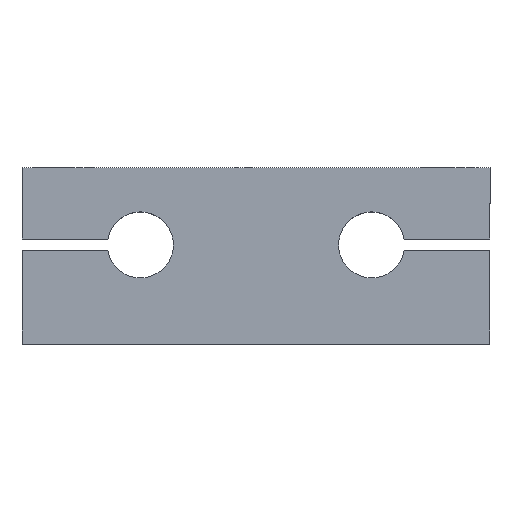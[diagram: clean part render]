
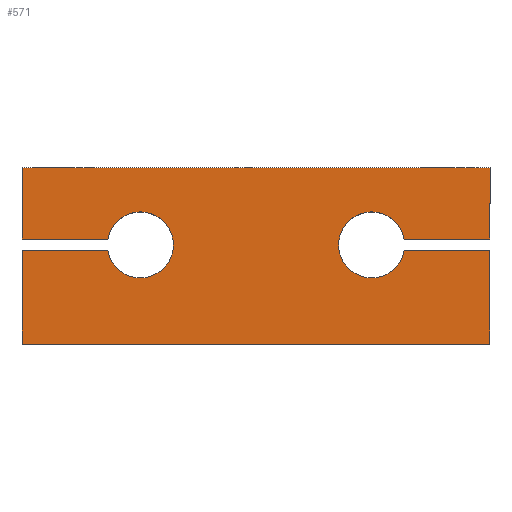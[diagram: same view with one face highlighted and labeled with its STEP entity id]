
A CAD part, top view. The second image highlights one B-rep face of the part: STEP entity #571.
In plain terms, the highlighted planar face has unit normal (0, 0, 1).
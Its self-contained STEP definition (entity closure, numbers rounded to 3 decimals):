
#21 = DIRECTION ( 'NONE',  ( 0., 0., 1. ) ) ;
#22 = DIRECTION ( 'NONE',  ( -1., 0., 0. ) ) ;
#27 = EDGE_CURVE ( 'NONE', #629, #144, #822, .T. ) ;
#28 = DIRECTION ( 'NONE',  ( 0., 1., 0. ) ) ;
#30 = DIRECTION ( 'NONE',  ( 0., -1., 0. ) ) ;
#32 = ORIENTED_EDGE ( 'NONE', *, *, #752, .F. ) ;
#36 = VERTEX_POINT ( 'NONE', #58 ) ;
#50 = AXIS2_PLACEMENT_3D ( 'NONE', #163, #75, #339 ) ;
#54 = LINE ( 'NONE', #1078, #265 ) ;
#55 = LINE ( 'NONE', #1091, #854 ) ;
#58 = CARTESIAN_POINT ( 'NONE',  ( -42.5, 0.925, 7. ) ) ;
#66 = ORIENTED_EDGE ( 'NONE', *, *, #525, .F. ) ;
#69 = FACE_OUTER_BOUND ( 'NONE', #1108, .T. ) ;
#74 = EDGE_CURVE ( 'NONE', #36, #496, #55, .T. ) ;
#75 = DIRECTION ( 'NONE',  ( 0., 0., 1. ) ) ;
#77 = CARTESIAN_POINT ( 'NONE',  ( -26.903, 3.075, 7. ) ) ;
#83 = VECTOR ( 'NONE', #204, 1000. ) ;
#111 = CARTESIAN_POINT ( 'NONE',  ( -21., 2., 7. ) ) ;
#112 = CARTESIAN_POINT ( 'NONE',  ( -42.5, 16., 7. ) ) ;
#139 = DIRECTION ( 'NONE',  ( 0., 0., 1. ) ) ;
#144 = VERTEX_POINT ( 'NONE', #844 ) ;
#163 = CARTESIAN_POINT ( 'NONE',  ( -21., 2., 7. ) ) ;
#168 = EDGE_CURVE ( 'NONE', #704, #197, #538, .T. ) ;
#184 = EDGE_CURVE ( 'NONE', #817, #1081, #1060, .T. ) ;
#186 = ORIENTED_EDGE ( 'NONE', *, *, #357, .T. ) ;
#197 = VERTEX_POINT ( 'NONE', #77 ) ;
#204 = DIRECTION ( 'NONE',  ( -1., 0., 0. ) ) ;
#214 = CARTESIAN_POINT ( 'NONE',  ( 42.5, 16., 7. ) ) ;
#219 = VECTOR ( 'NONE', #399, 1000. ) ;
#230 = CARTESIAN_POINT ( 'NONE',  ( -42.5, -16., 7. ) ) ;
#241 = CARTESIAN_POINT ( 'NONE',  ( -42.5, -16., 7. ) ) ;
#244 = CARTESIAN_POINT ( 'NONE',  ( 26.903, 3.075, 7. ) ) ;
#265 = VECTOR ( 'NONE', #664, 1000. ) ;
#283 = ORIENTED_EDGE ( 'NONE', *, *, #372, .F. ) ;
#284 = ORIENTED_EDGE ( 'NONE', *, *, #559, .T. ) ;
#330 = CARTESIAN_POINT ( 'NONE',  ( 0., 0., 7. ) ) ;
#339 = DIRECTION ( 'NONE',  ( 1., 0., 0. ) ) ;
#357 = EDGE_CURVE ( 'NONE', #36, #629, #702, .T. ) ;
#361 = ORIENTED_EDGE ( 'NONE', *, *, #27, .T. ) ;
#364 = VERTEX_POINT ( 'NONE', #214 ) ;
#372 = EDGE_CURVE ( 'NONE', #1081, #895, #710, .T. ) ;
#374 = DIRECTION ( 'NONE',  ( 1., 0., 0. ) ) ;
#382 = ORIENTED_EDGE ( 'NONE', *, *, #168, .F. ) ;
#393 = VECTOR ( 'NONE', #30, 1000. ) ;
#395 = ORIENTED_EDGE ( 'NONE', *, *, #74, .F. ) ;
#399 = DIRECTION ( 'NONE',  ( -1., 0., 0. ) ) ;
#400 = DIRECTION ( 'NONE',  ( 1., 0., 0. ) ) ;
#403 = LINE ( 'NONE', #912, #405 ) ;
#405 = VECTOR ( 'NONE', #746, 1000. ) ;
#406 = CIRCLE ( 'NONE', #1018, 6. ) ;
#431 = CARTESIAN_POINT ( 'NONE',  ( 42.5, 0.925, 7. ) ) ;
#446 = CARTESIAN_POINT ( 'NONE',  ( 26.903, 0.925, 7. ) ) ;
#488 = EDGE_CURVE ( 'NONE', #633, #817, #627, .T. ) ;
#495 = VECTOR ( 'NONE', #22, 1000. ) ;
#496 = VERTEX_POINT ( 'NONE', #541 ) ;
#509 = EDGE_CURVE ( 'NONE', #364, #1051, #875, .T. ) ;
#524 = EDGE_CURVE ( 'NONE', #633, #364, #54, .T. ) ;
#525 = EDGE_CURVE ( 'NONE', #197, #870, #1015, .T. ) ;
#527 = CARTESIAN_POINT ( 'NONE',  ( -15., 2., 7. ) ) ;
#538 = CIRCLE ( 'NONE', #50, 6. ) ;
#541 = CARTESIAN_POINT ( 'NONE',  ( -26.903, 0.925, 7. ) ) ;
#550 = VECTOR ( 'NONE', #28, 1000. ) ;
#559 = EDGE_CURVE ( 'NONE', #1051, #870, #403, .T. ) ;
#570 = DIRECTION ( 'NONE',  ( 1., 0., 0. ) ) ;
#571 = ADVANCED_FACE ( 'NONE', ( #69 ), #904, .T. ) ;
#592 = CARTESIAN_POINT ( 'NONE',  ( 21., 2., 7. ) ) ;
#627 = LINE ( 'NONE', #966, #83 ) ;
#629 = VERTEX_POINT ( 'NONE', #241 ) ;
#633 = VERTEX_POINT ( 'NONE', #1007 ) ;
#660 = DIRECTION ( 'NONE',  ( 1., 0., 0. ) ) ;
#664 = DIRECTION ( 'NONE',  ( 0., 1., 0. ) ) ;
#665 = DIRECTION ( 'NONE',  ( 1., 0., 0. ) ) ;
#694 = ORIENTED_EDGE ( 'NONE', *, *, #509, .T. ) ;
#702 = LINE ( 'NONE', #790, #393 ) ;
#704 = VERTEX_POINT ( 'NONE', #527 ) ;
#710 = LINE ( 'NONE', #977, #850 ) ;
#722 = ORIENTED_EDGE ( 'NONE', *, *, #524, .T. ) ;
#746 = DIRECTION ( 'NONE',  ( 0., -1., 0. ) ) ;
#752 = EDGE_CURVE ( 'NONE', #496, #704, #406, .T. ) ;
#764 = CARTESIAN_POINT ( 'NONE',  ( -42.5, 3.075, 7. ) ) ;
#790 = CARTESIAN_POINT ( 'NONE',  ( -42.5, 16., 7. ) ) ;
#791 = ORIENTED_EDGE ( 'NONE', *, *, #1028, .T. ) ;
#802 = CARTESIAN_POINT ( 'NONE',  ( 42.5, 16., 7. ) ) ;
#808 = DIRECTION ( 'NONE',  ( 1., 0., 0. ) ) ;
#812 = CARTESIAN_POINT ( 'NONE',  ( -42.5, 3.075, 7. ) ) ;
#817 = VERTEX_POINT ( 'NONE', #244 ) ;
#822 = LINE ( 'NONE', #230, #1058 ) ;
#844 = CARTESIAN_POINT ( 'NONE',  ( 42.5, -16., 7. ) ) ;
#850 = VECTOR ( 'NONE', #808, 1000. ) ;
#854 = VECTOR ( 'NONE', #400, 1000. ) ;
#868 = ORIENTED_EDGE ( 'NONE', *, *, #488, .F. ) ;
#870 = VERTEX_POINT ( 'NONE', #764 ) ;
#871 = AXIS2_PLACEMENT_3D ( 'NONE', #592, #934, #665 ) ;
#875 = LINE ( 'NONE', #112, #495 ) ;
#895 = VERTEX_POINT ( 'NONE', #431 ) ;
#904 = PLANE ( 'NONE',  #1002 ) ;
#912 = CARTESIAN_POINT ( 'NONE',  ( -42.5, 16., 7. ) ) ;
#934 = DIRECTION ( 'NONE',  ( 0., 0., 1. ) ) ;
#951 = ORIENTED_EDGE ( 'NONE', *, *, #184, .F. ) ;
#963 = LINE ( 'NONE', #802, #550 ) ;
#966 = CARTESIAN_POINT ( 'NONE',  ( 20., 3.075, 7. ) ) ;
#976 = CARTESIAN_POINT ( 'NONE',  ( -42.5, 16., 7. ) ) ;
#977 = CARTESIAN_POINT ( 'NONE',  ( 20., 0.925, 7. ) ) ;
#1002 = AXIS2_PLACEMENT_3D ( 'NONE', #330, #139, #660 ) ;
#1007 = CARTESIAN_POINT ( 'NONE',  ( 42.5, 3.075, 7. ) ) ;
#1015 = LINE ( 'NONE', #812, #219 ) ;
#1018 = AXIS2_PLACEMENT_3D ( 'NONE', #111, #21, #374 ) ;
#1028 = EDGE_CURVE ( 'NONE', #144, #895, #963, .T. ) ;
#1051 = VERTEX_POINT ( 'NONE', #976 ) ;
#1058 = VECTOR ( 'NONE', #570, 1000. ) ;
#1060 = CIRCLE ( 'NONE', #871, 6. ) ;
#1078 = CARTESIAN_POINT ( 'NONE',  ( 42.5, 16., 7. ) ) ;
#1081 = VERTEX_POINT ( 'NONE', #446 ) ;
#1091 = CARTESIAN_POINT ( 'NONE',  ( -42.5, 0.925, 7. ) ) ;
#1108 = EDGE_LOOP ( 'NONE', ( #66, #382, #32, #395, #186, #361, #791, #283, #951, #868, #722, #694, #284 ) ) ;
